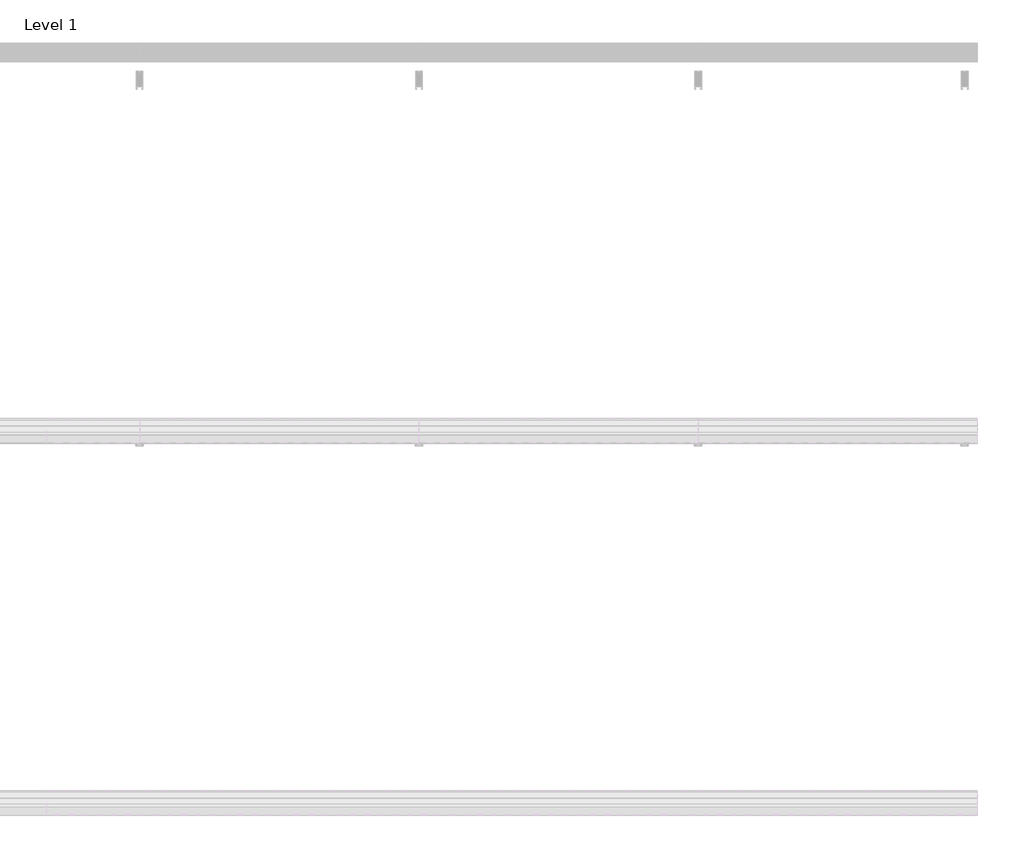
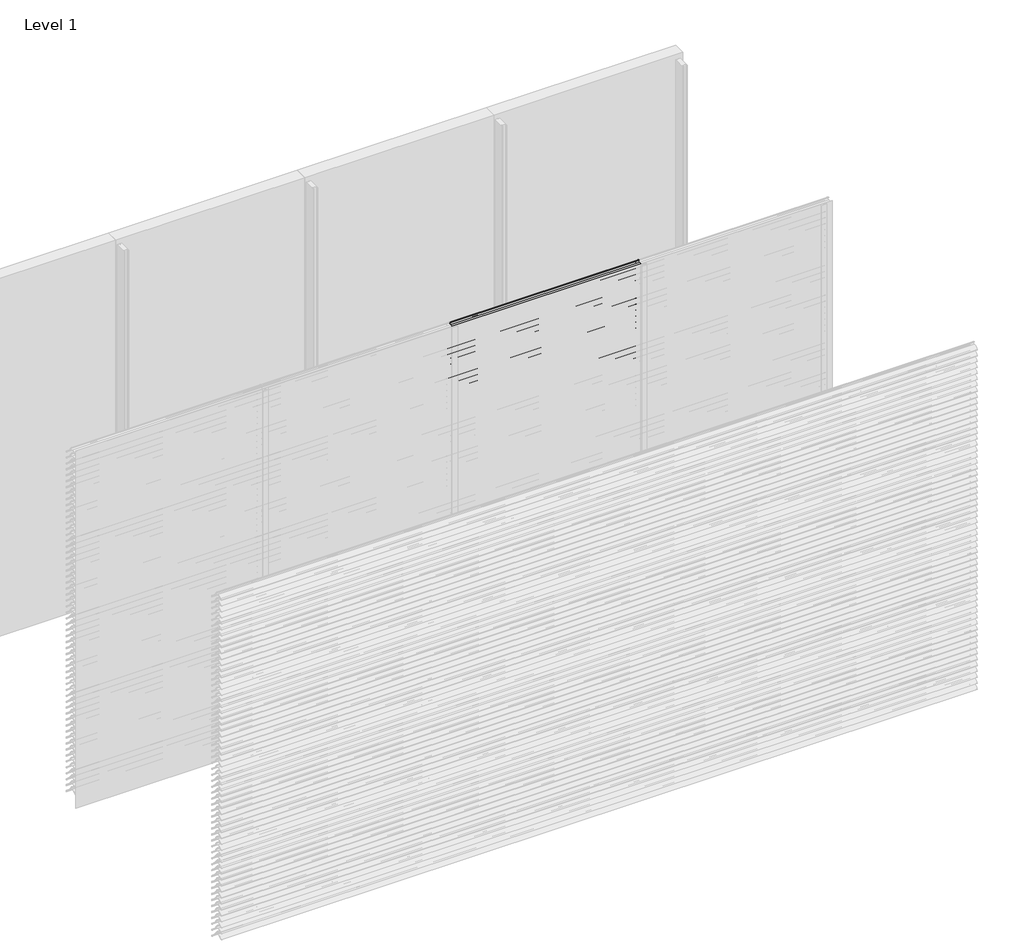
# One storey, part 99 of 173: 17 proxies.
"""IFC4 building model written with IfcOpenShell, lengths in millimetres."""

from ifc_helpers import new_model, si_unit, point, frame, frame_2d, origin, place, context, project, spatial, polyline, circle_curve, trimmed, segment, composite_curve, outline, extrude, element, save

model = new_model("IFC4")

# Units and contexts
model_context = context("Model", 3, world=origin())
ifc_project = project(units=[si_unit("LENGTHUNIT", "METRE", prefix="MILLI")], contexts=[model_context])

# Site, building, storey
site = spatial("IfcSite", under=ifc_project)
building = spatial("IfcBuilding", under=site)
storey = spatial("IfcBuildingStorey", under=building, Name="Level 1", Elevation=0.0)

# Proxies
placement = place(None, origin())
element("IfcBuildingElementProxy", 1, Name="Wall Sweeps", at=placement, inside=storey, context=model_context, shape_type="SweptSolid", body=[
    extrude(outline(composite_curve([segment(polyline([(-23998.0, 2959.1474905), (-23998.0, 2961.6227417)]), True, "CONTINUOUS"), segment(trimmed(circle_curve(frame_2d((-23951.2682172, 2916.2200208)), 65.1557103), [point((-23998.0, 2961.6227417))], [point((-23954.4014323, 2981.3003524))], False, "CARTESIAN"), True, "CONTINUOUS"), segment(polyline([(-23954.4014323, 2981.3003524), (-23934.8315836, 2981.3003524)]), True, "CONTINUOUS"), segment(trimmed(circle_curve(frame_2d((-23732.7329489, 3128.5533172)), 250.0545817), [point((-23934.8315836, 2981.3003524))], [point((-23941.4452143, 2990.8344583))], False, "CARTESIAN"), True, "CONTINUOUS"), segment(trimmed(circle_curve(frame_2d((-23953.2981792, 2985.1737835)), 13.1352966), [point((-23941.4452143, 2990.8344583))], [point((-23953.8171475, 2998.298824))], True, "CARTESIAN"), True, "CONTINUOUS"), segment(polyline([(-23953.8171475, 2998.298824), (-23953.8171475, 3000.0)]), True, "CONTINUOUS"), segment(trimmed(circle_curve(frame_2d((-23953.2981792, 2985.1737835)), 14.8352966), [point((-23953.8171475, 3000.0))], [point((-23939.9637661, 2991.6760487))], False, "CARTESIAN"), True, "CONTINUOUS"), segment(trimmed(circle_curve(frame_2d((-23732.7329489, 3128.5533172)), 248.3545817), [point((-23939.9637661, 2991.6760487))], [point((-23873.8787895, 2924.2059416))], True, "CARTESIAN"), True, "CONTINUOUS"), segment(trimmed(circle_curve(frame_2d((-23883.8147537, 2911.6649442)), 16.0), [point((-23873.8787895, 2924.2059416))], [point((-23867.8648347, 2910.4))], False, "CARTESIAN"), True, "CONTINUOUS"), segment(polyline([(-23867.8648347, 2910.4), (-23869.6712069, 2910.4)]), True, "CONTINUOUS"), segment(trimmed(circle_curve(frame_2d((-23883.8147537, 2911.6649442)), 14.2), [point((-23869.6712069, 2910.4))], [point((-23874.9518628, 2922.7594998))], True, "CARTESIAN"), True, "CONTINUOUS"), segment(trimmed(circle_curve(frame_2d((-23732.7329489, 3128.5533172)), 250.1545817), [point((-23874.9518628, 2922.7594998))], [point((-23933.7064024, 2979.6003524))], False, "CARTESIAN"), True, "CONTINUOUS"), segment(polyline([(-23933.7064024, 2979.6003524), (-23954.3602632, 2979.6003524)]), True, "CONTINUOUS"), segment(trimmed(circle_curve(frame_2d((-23951.2682172, 2916.2200208)), 63.4557103), [point((-23954.3602632, 2979.6003524))], [point((-23998.0, 2959.1474905))], True, "CARTESIAN"), True, "CONTINUOUS")], self_intersect=False)), frame((3000.0, 0.0, 0.0), z_axis=(1.0, 0.0, 0.0), x_axis=(0.0, 1.0, 0.0)), (0.0, 0.0, 1.0), 1500.0),
])
element("IfcBuildingElementProxy", 2, Name="Wall Sweeps", at=placement, inside=storey, context=model_context, shape_type="SweptSolid", body=[
    extrude(outline(composite_curve([segment(polyline([(-23998.0, 2909.1474905), (-23998.0, 2911.6227417)]), True, "CONTINUOUS"), segment(trimmed(circle_curve(frame_2d((-23951.2682172, 2866.2200208)), 65.1557103), [point((-23998.0, 2911.6227417))], [point((-23954.4014323, 2931.3003524))], False, "CARTESIAN"), True, "CONTINUOUS"), segment(polyline([(-23954.4014323, 2931.3003524), (-23934.8315836, 2931.3003524)]), True, "CONTINUOUS"), segment(trimmed(circle_curve(frame_2d((-23732.7329489, 3078.5533172)), 250.0545817), [point((-23934.8315836, 2931.3003524))], [point((-23941.4452143, 2940.8344583))], False, "CARTESIAN"), True, "CONTINUOUS"), segment(trimmed(circle_curve(frame_2d((-23953.2981792, 2935.1737835)), 13.1352966), [point((-23941.4452143, 2940.8344583))], [point((-23953.8171475, 2948.298824))], True, "CARTESIAN"), True, "CONTINUOUS"), segment(polyline([(-23953.8171475, 2948.298824), (-23953.8171475, 2950.0)]), True, "CONTINUOUS"), segment(trimmed(circle_curve(frame_2d((-23953.2981792, 2935.1737835)), 14.8352966), [point((-23953.8171475, 2950.0))], [point((-23939.9637661, 2941.6760487))], False, "CARTESIAN"), True, "CONTINUOUS"), segment(trimmed(circle_curve(frame_2d((-23732.7329489, 3078.5533172)), 248.3545817), [point((-23939.9637661, 2941.6760487))], [point((-23873.8787895, 2874.2059416))], True, "CARTESIAN"), True, "CONTINUOUS"), segment(trimmed(circle_curve(frame_2d((-23883.8147537, 2861.6649442)), 16.0), [point((-23873.8787895, 2874.2059416))], [point((-23867.8648347, 2860.4))], False, "CARTESIAN"), True, "CONTINUOUS"), segment(polyline([(-23867.8648347, 2860.4), (-23869.6712069, 2860.4)]), True, "CONTINUOUS"), segment(trimmed(circle_curve(frame_2d((-23883.8147537, 2861.6649442)), 14.2), [point((-23869.6712069, 2860.4))], [point((-23874.9518628, 2872.7594998))], True, "CARTESIAN"), True, "CONTINUOUS"), segment(trimmed(circle_curve(frame_2d((-23732.7329489, 3078.5533172)), 250.1545817), [point((-23874.9518628, 2872.7594998))], [point((-23933.7064024, 2929.6003524))], False, "CARTESIAN"), True, "CONTINUOUS"), segment(polyline([(-23933.7064024, 2929.6003524), (-23954.3602632, 2929.6003524)]), True, "CONTINUOUS"), segment(trimmed(circle_curve(frame_2d((-23951.2682172, 2866.2200208)), 63.4557103), [point((-23954.3602632, 2929.6003524))], [point((-23998.0, 2909.1474905))], True, "CARTESIAN"), True, "CONTINUOUS")], self_intersect=False)), frame((3000.0, 0.0, 0.0), z_axis=(1.0, 0.0, 0.0), x_axis=(0.0, 1.0, 0.0)), (0.0, 0.0, 1.0), 1500.0),
])
element("IfcBuildingElementProxy", 3, Name="Wall Sweeps", at=placement, inside=storey, context=model_context, shape_type="SweptSolid", body=[
    extrude(outline(composite_curve([segment(polyline([(-23998.0, 2859.1474905), (-23998.0, 2861.6227417)]), True, "CONTINUOUS"), segment(trimmed(circle_curve(frame_2d((-23951.2682172, 2816.2200208)), 65.1557103), [point((-23998.0, 2861.6227417))], [point((-23954.4014323, 2881.3003524))], False, "CARTESIAN"), True, "CONTINUOUS"), segment(polyline([(-23954.4014323, 2881.3003524), (-23934.8315836, 2881.3003524)]), True, "CONTINUOUS"), segment(trimmed(circle_curve(frame_2d((-23732.7329489, 3028.5533172)), 250.0545817), [point((-23934.8315836, 2881.3003524))], [point((-23941.4452143, 2890.8344583))], False, "CARTESIAN"), True, "CONTINUOUS"), segment(trimmed(circle_curve(frame_2d((-23953.2981792, 2885.1737835)), 13.1352966), [point((-23941.4452143, 2890.8344583))], [point((-23953.8171475, 2898.298824))], True, "CARTESIAN"), True, "CONTINUOUS"), segment(polyline([(-23953.8171475, 2898.298824), (-23953.8171475, 2900.0)]), True, "CONTINUOUS"), segment(trimmed(circle_curve(frame_2d((-23953.2981792, 2885.1737835)), 14.8352966), [point((-23953.8171475, 2900.0))], [point((-23939.9637661, 2891.6760487))], False, "CARTESIAN"), True, "CONTINUOUS"), segment(trimmed(circle_curve(frame_2d((-23732.7329489, 3028.5533172)), 248.3545817), [point((-23939.9637661, 2891.6760487))], [point((-23873.8787895, 2824.2059416))], True, "CARTESIAN"), True, "CONTINUOUS"), segment(trimmed(circle_curve(frame_2d((-23883.8147537, 2811.6649442)), 16.0), [point((-23873.8787895, 2824.2059416))], [point((-23867.8648347, 2810.4))], False, "CARTESIAN"), True, "CONTINUOUS"), segment(polyline([(-23867.8648347, 2810.4), (-23869.6712069, 2810.4)]), True, "CONTINUOUS"), segment(trimmed(circle_curve(frame_2d((-23883.8147537, 2811.6649442)), 14.2), [point((-23869.6712069, 2810.4))], [point((-23874.9518628, 2822.7594998))], True, "CARTESIAN"), True, "CONTINUOUS"), segment(trimmed(circle_curve(frame_2d((-23732.7329489, 3028.5533172)), 250.1545817), [point((-23874.9518628, 2822.7594998))], [point((-23933.7064024, 2879.6003524))], False, "CARTESIAN"), True, "CONTINUOUS"), segment(polyline([(-23933.7064024, 2879.6003524), (-23954.3602632, 2879.6003524)]), True, "CONTINUOUS"), segment(trimmed(circle_curve(frame_2d((-23951.2682172, 2816.2200208)), 63.4557103), [point((-23954.3602632, 2879.6003524))], [point((-23998.0, 2859.1474905))], True, "CARTESIAN"), True, "CONTINUOUS")], self_intersect=False)), frame((3000.0, 0.0, 0.0), z_axis=(1.0, 0.0, 0.0), x_axis=(0.0, 1.0, 0.0)), (0.0, 0.0, 1.0), 1500.0),
])
element("IfcBuildingElementProxy", 4, Name="Wall Sweeps", at=placement, inside=storey, context=model_context, shape_type="SweptSolid", body=[
    extrude(outline(composite_curve([segment(polyline([(-23998.0, 2809.1474905), (-23998.0, 2811.6227417)]), True, "CONTINUOUS"), segment(trimmed(circle_curve(frame_2d((-23951.2682172, 2766.2200208)), 65.1557103), [point((-23998.0, 2811.6227417))], [point((-23954.4014323, 2831.3003524))], False, "CARTESIAN"), True, "CONTINUOUS"), segment(polyline([(-23954.4014323, 2831.3003524), (-23934.8315836, 2831.3003524)]), True, "CONTINUOUS"), segment(trimmed(circle_curve(frame_2d((-23732.7329489, 2978.5533172)), 250.0545817), [point((-23934.8315836, 2831.3003524))], [point((-23941.4452143, 2840.8344583))], False, "CARTESIAN"), True, "CONTINUOUS"), segment(trimmed(circle_curve(frame_2d((-23953.2981792, 2835.1737835)), 13.1352966), [point((-23941.4452143, 2840.8344583))], [point((-23953.8171475, 2848.298824))], True, "CARTESIAN"), True, "CONTINUOUS"), segment(polyline([(-23953.8171475, 2848.298824), (-23953.8171475, 2850.0)]), True, "CONTINUOUS"), segment(trimmed(circle_curve(frame_2d((-23953.2981792, 2835.1737835)), 14.8352966), [point((-23953.8171475, 2850.0))], [point((-23939.9637661, 2841.6760487))], False, "CARTESIAN"), True, "CONTINUOUS"), segment(trimmed(circle_curve(frame_2d((-23732.7329489, 2978.5533172)), 248.3545817), [point((-23939.9637661, 2841.6760487))], [point((-23873.8787895, 2774.2059416))], True, "CARTESIAN"), True, "CONTINUOUS"), segment(trimmed(circle_curve(frame_2d((-23883.8147537, 2761.6649442)), 16.0), [point((-23873.8787895, 2774.2059416))], [point((-23867.8648347, 2760.4))], False, "CARTESIAN"), True, "CONTINUOUS"), segment(polyline([(-23867.8648347, 2760.4), (-23869.6712069, 2760.4)]), True, "CONTINUOUS"), segment(trimmed(circle_curve(frame_2d((-23883.8147537, 2761.6649442)), 14.2), [point((-23869.6712069, 2760.4))], [point((-23874.9518628, 2772.7594998))], True, "CARTESIAN"), True, "CONTINUOUS"), segment(trimmed(circle_curve(frame_2d((-23732.7329489, 2978.5533172)), 250.1545817), [point((-23874.9518628, 2772.7594998))], [point((-23933.7064024, 2829.6003524))], False, "CARTESIAN"), True, "CONTINUOUS"), segment(polyline([(-23933.7064024, 2829.6003524), (-23954.3602632, 2829.6003524)]), True, "CONTINUOUS"), segment(trimmed(circle_curve(frame_2d((-23951.2682172, 2766.2200208)), 63.4557103), [point((-23954.3602632, 2829.6003524))], [point((-23998.0, 2809.1474905))], True, "CARTESIAN"), True, "CONTINUOUS")], self_intersect=False)), frame((3000.0, 0.0, 0.0), z_axis=(1.0, 0.0, 0.0), x_axis=(0.0, 1.0, 0.0)), (0.0, 0.0, 1.0), 1500.0),
])
element("IfcBuildingElementProxy", 5, Name="Wall Sweeps", at=placement, inside=storey, context=model_context, shape_type="SweptSolid", body=[
    extrude(outline(composite_curve([segment(polyline([(-23998.0, 2759.1474905), (-23998.0, 2761.6227417)]), True, "CONTINUOUS"), segment(trimmed(circle_curve(frame_2d((-23951.2682172, 2716.2200208)), 65.1557103), [point((-23998.0, 2761.6227417))], [point((-23954.4014323, 2781.3003524))], False, "CARTESIAN"), True, "CONTINUOUS"), segment(polyline([(-23954.4014323, 2781.3003524), (-23934.8315836, 2781.3003524)]), True, "CONTINUOUS"), segment(trimmed(circle_curve(frame_2d((-23732.7329489, 2928.5533172)), 250.0545817), [point((-23934.8315836, 2781.3003524))], [point((-23941.4452143, 2790.8344583))], False, "CARTESIAN"), True, "CONTINUOUS"), segment(trimmed(circle_curve(frame_2d((-23953.2981792, 2785.1737835)), 13.1352966), [point((-23941.4452143, 2790.8344583))], [point((-23953.8171475, 2798.298824))], True, "CARTESIAN"), True, "CONTINUOUS"), segment(polyline([(-23953.8171475, 2798.298824), (-23953.8171475, 2800.0)]), True, "CONTINUOUS"), segment(trimmed(circle_curve(frame_2d((-23953.2981792, 2785.1737835)), 14.8352966), [point((-23953.8171475, 2800.0))], [point((-23939.9637661, 2791.6760487))], False, "CARTESIAN"), True, "CONTINUOUS"), segment(trimmed(circle_curve(frame_2d((-23732.7329489, 2928.5533172)), 248.3545817), [point((-23939.9637661, 2791.6760487))], [point((-23873.8787895, 2724.2059416))], True, "CARTESIAN"), True, "CONTINUOUS"), segment(trimmed(circle_curve(frame_2d((-23883.8147537, 2711.6649442)), 16.0), [point((-23873.8787895, 2724.2059416))], [point((-23867.8648347, 2710.4))], False, "CARTESIAN"), True, "CONTINUOUS"), segment(polyline([(-23867.8648347, 2710.4), (-23869.6712069, 2710.4)]), True, "CONTINUOUS"), segment(trimmed(circle_curve(frame_2d((-23883.8147537, 2711.6649442)), 14.2), [point((-23869.6712069, 2710.4))], [point((-23874.9518628, 2722.7594998))], True, "CARTESIAN"), True, "CONTINUOUS"), segment(trimmed(circle_curve(frame_2d((-23732.7329489, 2928.5533172)), 250.1545817), [point((-23874.9518628, 2722.7594998))], [point((-23933.7064024, 2779.6003524))], False, "CARTESIAN"), True, "CONTINUOUS"), segment(polyline([(-23933.7064024, 2779.6003524), (-23954.3602632, 2779.6003524)]), True, "CONTINUOUS"), segment(trimmed(circle_curve(frame_2d((-23951.2682172, 2716.2200208)), 63.4557103), [point((-23954.3602632, 2779.6003524))], [point((-23998.0, 2759.1474905))], True, "CARTESIAN"), True, "CONTINUOUS")], self_intersect=False)), frame((3000.0, 0.0, 0.0), z_axis=(1.0, 0.0, 0.0), x_axis=(0.0, 1.0, 0.0)), (0.0, 0.0, 1.0), 1500.0),
])
element("IfcBuildingElementProxy", 6, Name="Wall Sweeps", at=placement, inside=storey, context=model_context, shape_type="SweptSolid", body=[
    extrude(outline(composite_curve([segment(polyline([(-23998.0, 2709.1474905), (-23998.0, 2711.6227417)]), True, "CONTINUOUS"), segment(trimmed(circle_curve(frame_2d((-23951.2682172, 2666.2200208)), 65.1557103), [point((-23998.0, 2711.6227417))], [point((-23954.4014323, 2731.3003524))], False, "CARTESIAN"), True, "CONTINUOUS"), segment(polyline([(-23954.4014323, 2731.3003524), (-23934.8315836, 2731.3003524)]), True, "CONTINUOUS"), segment(trimmed(circle_curve(frame_2d((-23732.7329489, 2878.5533172)), 250.0545817), [point((-23934.8315836, 2731.3003524))], [point((-23941.4452143, 2740.8344583))], False, "CARTESIAN"), True, "CONTINUOUS"), segment(trimmed(circle_curve(frame_2d((-23953.2981792, 2735.1737835)), 13.1352966), [point((-23941.4452143, 2740.8344583))], [point((-23953.8171475, 2748.298824))], True, "CARTESIAN"), True, "CONTINUOUS"), segment(polyline([(-23953.8171475, 2748.298824), (-23953.8171475, 2750.0)]), True, "CONTINUOUS"), segment(trimmed(circle_curve(frame_2d((-23953.2981792, 2735.1737835)), 14.8352966), [point((-23953.8171475, 2750.0))], [point((-23939.9637661, 2741.6760487))], False, "CARTESIAN"), True, "CONTINUOUS"), segment(trimmed(circle_curve(frame_2d((-23732.7329489, 2878.5533172)), 248.3545817), [point((-23939.9637661, 2741.6760487))], [point((-23873.8787895, 2674.2059416))], True, "CARTESIAN"), True, "CONTINUOUS"), segment(trimmed(circle_curve(frame_2d((-23883.8147537, 2661.6649442)), 16.0), [point((-23873.8787895, 2674.2059416))], [point((-23867.8648347, 2660.4))], False, "CARTESIAN"), True, "CONTINUOUS"), segment(polyline([(-23867.8648347, 2660.4), (-23869.6712069, 2660.4)]), True, "CONTINUOUS"), segment(trimmed(circle_curve(frame_2d((-23883.8147537, 2661.6649442)), 14.2), [point((-23869.6712069, 2660.4))], [point((-23874.9518628, 2672.7594998))], True, "CARTESIAN"), True, "CONTINUOUS"), segment(trimmed(circle_curve(frame_2d((-23732.7329489, 2878.5533172)), 250.1545817), [point((-23874.9518628, 2672.7594998))], [point((-23933.7064024, 2729.6003524))], False, "CARTESIAN"), True, "CONTINUOUS"), segment(polyline([(-23933.7064024, 2729.6003524), (-23954.3602632, 2729.6003524)]), True, "CONTINUOUS"), segment(trimmed(circle_curve(frame_2d((-23951.2682172, 2666.2200208)), 63.4557103), [point((-23954.3602632, 2729.6003524))], [point((-23998.0, 2709.1474905))], True, "CARTESIAN"), True, "CONTINUOUS")], self_intersect=False)), frame((3000.0, 0.0, 0.0), z_axis=(1.0, 0.0, 0.0), x_axis=(0.0, 1.0, 0.0)), (0.0, 0.0, 1.0), 1500.0),
])
element("IfcBuildingElementProxy", 7, Name="Wall Sweeps", at=placement, inside=storey, context=model_context, shape_type="SweptSolid", body=[
    extrude(outline(composite_curve([segment(polyline([(-23998.0, 2659.1474905), (-23998.0, 2661.6227417)]), True, "CONTINUOUS"), segment(trimmed(circle_curve(frame_2d((-23951.2682172, 2616.2200208)), 65.1557103), [point((-23998.0, 2661.6227417))], [point((-23954.4014323, 2681.3003524))], False, "CARTESIAN"), True, "CONTINUOUS"), segment(polyline([(-23954.4014323, 2681.3003524), (-23934.8315836, 2681.3003524)]), True, "CONTINUOUS"), segment(trimmed(circle_curve(frame_2d((-23732.7329489, 2828.5533172)), 250.0545817), [point((-23934.8315836, 2681.3003524))], [point((-23941.4452143, 2690.8344583))], False, "CARTESIAN"), True, "CONTINUOUS"), segment(trimmed(circle_curve(frame_2d((-23953.2981792, 2685.1737835)), 13.1352966), [point((-23941.4452143, 2690.8344583))], [point((-23953.8171475, 2698.298824))], True, "CARTESIAN"), True, "CONTINUOUS"), segment(polyline([(-23953.8171475, 2698.298824), (-23953.8171475, 2700.0)]), True, "CONTINUOUS"), segment(trimmed(circle_curve(frame_2d((-23953.2981792, 2685.1737835)), 14.8352966), [point((-23953.8171475, 2700.0))], [point((-23939.9637661, 2691.6760487))], False, "CARTESIAN"), True, "CONTINUOUS"), segment(trimmed(circle_curve(frame_2d((-23732.7329489, 2828.5533172)), 248.3545817), [point((-23939.9637661, 2691.6760487))], [point((-23873.8787895, 2624.2059416))], True, "CARTESIAN"), True, "CONTINUOUS"), segment(trimmed(circle_curve(frame_2d((-23883.8147537, 2611.6649442)), 16.0), [point((-23873.8787895, 2624.2059416))], [point((-23867.8648347, 2610.4))], False, "CARTESIAN"), True, "CONTINUOUS"), segment(polyline([(-23867.8648347, 2610.4), (-23869.6712069, 2610.4)]), True, "CONTINUOUS"), segment(trimmed(circle_curve(frame_2d((-23883.8147537, 2611.6649442)), 14.2), [point((-23869.6712069, 2610.4))], [point((-23874.9518628, 2622.7594998))], True, "CARTESIAN"), True, "CONTINUOUS"), segment(trimmed(circle_curve(frame_2d((-23732.7329489, 2828.5533172)), 250.1545817), [point((-23874.9518628, 2622.7594998))], [point((-23933.7064024, 2679.6003524))], False, "CARTESIAN"), True, "CONTINUOUS"), segment(polyline([(-23933.7064024, 2679.6003524), (-23954.3602632, 2679.6003524)]), True, "CONTINUOUS"), segment(trimmed(circle_curve(frame_2d((-23951.2682172, 2616.2200208)), 63.4557103), [point((-23954.3602632, 2679.6003524))], [point((-23998.0, 2659.1474905))], True, "CARTESIAN"), True, "CONTINUOUS")], self_intersect=False)), frame((3000.0, 0.0, 0.0), z_axis=(1.0, 0.0, 0.0), x_axis=(0.0, 1.0, 0.0)), (0.0, 0.0, 1.0), 1500.0),
])
element("IfcBuildingElementProxy", 8, Name="Wall Sweeps", at=placement, inside=storey, context=model_context, shape_type="SweptSolid", body=[
    extrude(outline(composite_curve([segment(polyline([(-23998.0, 2609.1474905), (-23998.0, 2611.6227417)]), True, "CONTINUOUS"), segment(trimmed(circle_curve(frame_2d((-23951.2682172, 2566.2200208)), 65.1557103), [point((-23998.0, 2611.6227417))], [point((-23954.4014323, 2631.3003524))], False, "CARTESIAN"), True, "CONTINUOUS"), segment(polyline([(-23954.4014323, 2631.3003524), (-23934.8315836, 2631.3003524)]), True, "CONTINUOUS"), segment(trimmed(circle_curve(frame_2d((-23732.7329489, 2778.5533172)), 250.0545817), [point((-23934.8315836, 2631.3003524))], [point((-23941.4452143, 2640.8344583))], False, "CARTESIAN"), True, "CONTINUOUS"), segment(trimmed(circle_curve(frame_2d((-23953.2981792, 2635.1737835)), 13.1352966), [point((-23941.4452143, 2640.8344583))], [point((-23953.8171475, 2648.298824))], True, "CARTESIAN"), True, "CONTINUOUS"), segment(polyline([(-23953.8171475, 2648.298824), (-23953.8171475, 2650.0)]), True, "CONTINUOUS"), segment(trimmed(circle_curve(frame_2d((-23953.2981792, 2635.1737835)), 14.8352966), [point((-23953.8171475, 2650.0))], [point((-23939.9637661, 2641.6760487))], False, "CARTESIAN"), True, "CONTINUOUS"), segment(trimmed(circle_curve(frame_2d((-23732.7329489, 2778.5533172)), 248.3545817), [point((-23939.9637661, 2641.6760487))], [point((-23873.8787895, 2574.2059416))], True, "CARTESIAN"), True, "CONTINUOUS"), segment(trimmed(circle_curve(frame_2d((-23883.8147537, 2561.6649442)), 16.0), [point((-23873.8787895, 2574.2059416))], [point((-23867.8648347, 2560.4))], False, "CARTESIAN"), True, "CONTINUOUS"), segment(polyline([(-23867.8648347, 2560.4), (-23869.6712069, 2560.4)]), True, "CONTINUOUS"), segment(trimmed(circle_curve(frame_2d((-23883.8147537, 2561.6649442)), 14.2), [point((-23869.6712069, 2560.4))], [point((-23874.9518628, 2572.7594998))], True, "CARTESIAN"), True, "CONTINUOUS"), segment(trimmed(circle_curve(frame_2d((-23732.7329489, 2778.5533172)), 250.1545817), [point((-23874.9518628, 2572.7594998))], [point((-23933.7064024, 2629.6003524))], False, "CARTESIAN"), True, "CONTINUOUS"), segment(polyline([(-23933.7064024, 2629.6003524), (-23954.3602632, 2629.6003524)]), True, "CONTINUOUS"), segment(trimmed(circle_curve(frame_2d((-23951.2682172, 2566.2200208)), 63.4557103), [point((-23954.3602632, 2629.6003524))], [point((-23998.0, 2609.1474905))], True, "CARTESIAN"), True, "CONTINUOUS")], self_intersect=False)), frame((3000.0, 0.0, 0.0), z_axis=(1.0, 0.0, 0.0), x_axis=(0.0, 1.0, 0.0)), (0.0, 0.0, 1.0), 1500.0),
])
element("IfcBuildingElementProxy", 9, Name="Wall Sweeps", at=placement, inside=storey, context=model_context, shape_type="SweptSolid", body=[
    extrude(outline(composite_curve([segment(polyline([(-23998.0, 2559.1474905), (-23998.0, 2561.6227417)]), True, "CONTINUOUS"), segment(trimmed(circle_curve(frame_2d((-23951.2682172, 2516.2200208)), 65.1557103), [point((-23998.0, 2561.6227417))], [point((-23954.4014323, 2581.3003524))], False, "CARTESIAN"), True, "CONTINUOUS"), segment(polyline([(-23954.4014323, 2581.3003524), (-23934.8315836, 2581.3003524)]), True, "CONTINUOUS"), segment(trimmed(circle_curve(frame_2d((-23732.7329489, 2728.5533172)), 250.0545817), [point((-23934.8315836, 2581.3003524))], [point((-23941.4452143, 2590.8344583))], False, "CARTESIAN"), True, "CONTINUOUS"), segment(trimmed(circle_curve(frame_2d((-23953.2981792, 2585.1737835)), 13.1352966), [point((-23941.4452143, 2590.8344583))], [point((-23953.8171475, 2598.298824))], True, "CARTESIAN"), True, "CONTINUOUS"), segment(polyline([(-23953.8171475, 2598.298824), (-23953.8171475, 2600.0)]), True, "CONTINUOUS"), segment(trimmed(circle_curve(frame_2d((-23953.2981792, 2585.1737835)), 14.8352966), [point((-23953.8171475, 2600.0))], [point((-23939.9637661, 2591.6760487))], False, "CARTESIAN"), True, "CONTINUOUS"), segment(trimmed(circle_curve(frame_2d((-23732.7329489, 2728.5533172)), 248.3545817), [point((-23939.9637661, 2591.6760487))], [point((-23873.8787895, 2524.2059416))], True, "CARTESIAN"), True, "CONTINUOUS"), segment(trimmed(circle_curve(frame_2d((-23883.8147537, 2511.6649442)), 16.0), [point((-23873.8787895, 2524.2059416))], [point((-23867.8648347, 2510.4))], False, "CARTESIAN"), True, "CONTINUOUS"), segment(polyline([(-23867.8648347, 2510.4), (-23869.6712069, 2510.4)]), True, "CONTINUOUS"), segment(trimmed(circle_curve(frame_2d((-23883.8147537, 2511.6649442)), 14.2), [point((-23869.6712069, 2510.4))], [point((-23874.9518628, 2522.7594998))], True, "CARTESIAN"), True, "CONTINUOUS"), segment(trimmed(circle_curve(frame_2d((-23732.7329489, 2728.5533172)), 250.1545817), [point((-23874.9518628, 2522.7594998))], [point((-23933.7064024, 2579.6003524))], False, "CARTESIAN"), True, "CONTINUOUS"), segment(polyline([(-23933.7064024, 2579.6003524), (-23954.3602632, 2579.6003524)]), True, "CONTINUOUS"), segment(trimmed(circle_curve(frame_2d((-23951.2682172, 2516.2200208)), 63.4557103), [point((-23954.3602632, 2579.6003524))], [point((-23998.0, 2559.1474905))], True, "CARTESIAN"), True, "CONTINUOUS")], self_intersect=False)), frame((3000.0, 0.0, 0.0), z_axis=(1.0, 0.0, 0.0), x_axis=(0.0, 1.0, 0.0)), (0.0, 0.0, 1.0), 1500.0),
])
element("IfcBuildingElementProxy", 10, Name="Wall Sweeps", at=placement, inside=storey, context=model_context, shape_type="SweptSolid", body=[
    extrude(outline(composite_curve([segment(polyline([(-23998.0, 2509.1474905), (-23998.0, 2511.6227417)]), True, "CONTINUOUS"), segment(trimmed(circle_curve(frame_2d((-23951.2682172, 2466.2200208)), 65.1557103), [point((-23998.0, 2511.6227417))], [point((-23954.4014323, 2531.3003524))], False, "CARTESIAN"), True, "CONTINUOUS"), segment(polyline([(-23954.4014323, 2531.3003524), (-23934.8315836, 2531.3003524)]), True, "CONTINUOUS"), segment(trimmed(circle_curve(frame_2d((-23732.7329489, 2678.5533172)), 250.0545817), [point((-23934.8315836, 2531.3003524))], [point((-23941.4452143, 2540.8344583))], False, "CARTESIAN"), True, "CONTINUOUS"), segment(trimmed(circle_curve(frame_2d((-23953.2981792, 2535.1737835)), 13.1352966), [point((-23941.4452143, 2540.8344583))], [point((-23953.8171475, 2548.298824))], True, "CARTESIAN"), True, "CONTINUOUS"), segment(polyline([(-23953.8171475, 2548.298824), (-23953.8171475, 2550.0)]), True, "CONTINUOUS"), segment(trimmed(circle_curve(frame_2d((-23953.2981792, 2535.1737835)), 14.8352966), [point((-23953.8171475, 2550.0))], [point((-23939.9637661, 2541.6760487))], False, "CARTESIAN"), True, "CONTINUOUS"), segment(trimmed(circle_curve(frame_2d((-23732.7329489, 2678.5533172)), 248.3545817), [point((-23939.9637661, 2541.6760487))], [point((-23873.8787895, 2474.2059416))], True, "CARTESIAN"), True, "CONTINUOUS"), segment(trimmed(circle_curve(frame_2d((-23883.8147537, 2461.6649442)), 16.0), [point((-23873.8787895, 2474.2059416))], [point((-23867.8648347, 2460.4))], False, "CARTESIAN"), True, "CONTINUOUS"), segment(polyline([(-23867.8648347, 2460.4), (-23869.6712069, 2460.4)]), True, "CONTINUOUS"), segment(trimmed(circle_curve(frame_2d((-23883.8147537, 2461.6649442)), 14.2), [point((-23869.6712069, 2460.4))], [point((-23874.9518628, 2472.7594998))], True, "CARTESIAN"), True, "CONTINUOUS"), segment(trimmed(circle_curve(frame_2d((-23732.7329489, 2678.5533172)), 250.1545817), [point((-23874.9518628, 2472.7594998))], [point((-23933.7064024, 2529.6003524))], False, "CARTESIAN"), True, "CONTINUOUS"), segment(polyline([(-23933.7064024, 2529.6003524), (-23954.3602632, 2529.6003524)]), True, "CONTINUOUS"), segment(trimmed(circle_curve(frame_2d((-23951.2682172, 2466.2200208)), 63.4557103), [point((-23954.3602632, 2529.6003524))], [point((-23998.0, 2509.1474905))], True, "CARTESIAN"), True, "CONTINUOUS")], self_intersect=False)), frame((3000.0, 0.0, 0.0), z_axis=(1.0, 0.0, 0.0), x_axis=(0.0, 1.0, 0.0)), (0.0, 0.0, 1.0), 1500.0),
])
element("IfcBuildingElementProxy", 11, Name="Wall Sweeps", at=placement, inside=storey, context=model_context, shape_type="SweptSolid", body=[
    extrude(outline(composite_curve([segment(polyline([(-23998.0, 2459.1474905), (-23998.0, 2461.6227417)]), True, "CONTINUOUS"), segment(trimmed(circle_curve(frame_2d((-23951.2682172, 2416.2200208)), 65.1557103), [point((-23998.0, 2461.6227417))], [point((-23954.4014323, 2481.3003524))], False, "CARTESIAN"), True, "CONTINUOUS"), segment(polyline([(-23954.4014323, 2481.3003524), (-23934.8315836, 2481.3003524)]), True, "CONTINUOUS"), segment(trimmed(circle_curve(frame_2d((-23732.7329489, 2628.5533172)), 250.0545817), [point((-23934.8315836, 2481.3003524))], [point((-23941.4452143, 2490.8344583))], False, "CARTESIAN"), True, "CONTINUOUS"), segment(trimmed(circle_curve(frame_2d((-23953.2981792, 2485.1737835)), 13.1352966), [point((-23941.4452143, 2490.8344583))], [point((-23953.8171475, 2498.298824))], True, "CARTESIAN"), True, "CONTINUOUS"), segment(polyline([(-23953.8171475, 2498.298824), (-23953.8171475, 2500.0)]), True, "CONTINUOUS"), segment(trimmed(circle_curve(frame_2d((-23953.2981792, 2485.1737835)), 14.8352966), [point((-23953.8171475, 2500.0))], [point((-23939.9637661, 2491.6760487))], False, "CARTESIAN"), True, "CONTINUOUS"), segment(trimmed(circle_curve(frame_2d((-23732.7329489, 2628.5533172)), 248.3545817), [point((-23939.9637661, 2491.6760487))], [point((-23873.8787895, 2424.2059416))], True, "CARTESIAN"), True, "CONTINUOUS"), segment(trimmed(circle_curve(frame_2d((-23883.8147537, 2411.6649442)), 16.0), [point((-23873.8787895, 2424.2059416))], [point((-23867.8648347, 2410.4))], False, "CARTESIAN"), True, "CONTINUOUS"), segment(polyline([(-23867.8648347, 2410.4), (-23869.6712069, 2410.4)]), True, "CONTINUOUS"), segment(trimmed(circle_curve(frame_2d((-23883.8147537, 2411.6649442)), 14.2), [point((-23869.6712069, 2410.4))], [point((-23874.9518628, 2422.7594998))], True, "CARTESIAN"), True, "CONTINUOUS"), segment(trimmed(circle_curve(frame_2d((-23732.7329489, 2628.5533172)), 250.1545817), [point((-23874.9518628, 2422.7594998))], [point((-23933.7064024, 2479.6003524))], False, "CARTESIAN"), True, "CONTINUOUS"), segment(polyline([(-23933.7064024, 2479.6003524), (-23954.3602632, 2479.6003524)]), True, "CONTINUOUS"), segment(trimmed(circle_curve(frame_2d((-23951.2682172, 2416.2200208)), 63.4557103), [point((-23954.3602632, 2479.6003524))], [point((-23998.0, 2459.1474905))], True, "CARTESIAN"), True, "CONTINUOUS")], self_intersect=False)), frame((3000.0, 0.0, 0.0), z_axis=(1.0, 0.0, 0.0), x_axis=(0.0, 1.0, 0.0)), (0.0, 0.0, 1.0), 1500.0),
])
element("IfcBuildingElementProxy", 12, Name="Wall Sweeps", at=placement, inside=storey, context=model_context, shape_type="SweptSolid", body=[
    extrude(outline(composite_curve([segment(polyline([(-23998.0, 2409.1474905), (-23998.0, 2411.6227417)]), True, "CONTINUOUS"), segment(trimmed(circle_curve(frame_2d((-23951.2682172, 2366.2200208)), 65.1557103), [point((-23998.0, 2411.6227417))], [point((-23954.4014323, 2431.3003524))], False, "CARTESIAN"), True, "CONTINUOUS"), segment(polyline([(-23954.4014323, 2431.3003524), (-23934.8315836, 2431.3003524)]), True, "CONTINUOUS"), segment(trimmed(circle_curve(frame_2d((-23732.7329489, 2578.5533172)), 250.0545817), [point((-23934.8315836, 2431.3003524))], [point((-23941.4452143, 2440.8344583))], False, "CARTESIAN"), True, "CONTINUOUS"), segment(trimmed(circle_curve(frame_2d((-23953.2981792, 2435.1737835)), 13.1352966), [point((-23941.4452143, 2440.8344583))], [point((-23953.8171475, 2448.298824))], True, "CARTESIAN"), True, "CONTINUOUS"), segment(polyline([(-23953.8171475, 2448.298824), (-23953.8171475, 2450.0)]), True, "CONTINUOUS"), segment(trimmed(circle_curve(frame_2d((-23953.2981792, 2435.1737835)), 14.8352966), [point((-23953.8171475, 2450.0))], [point((-23939.9637661, 2441.6760487))], False, "CARTESIAN"), True, "CONTINUOUS"), segment(trimmed(circle_curve(frame_2d((-23732.7329489, 2578.5533172)), 248.3545817), [point((-23939.9637661, 2441.6760487))], [point((-23873.8787895, 2374.2059416))], True, "CARTESIAN"), True, "CONTINUOUS"), segment(trimmed(circle_curve(frame_2d((-23883.8147537, 2361.6649442)), 16.0), [point((-23873.8787895, 2374.2059416))], [point((-23867.8648347, 2360.4))], False, "CARTESIAN"), True, "CONTINUOUS"), segment(polyline([(-23867.8648347, 2360.4), (-23869.6712069, 2360.4)]), True, "CONTINUOUS"), segment(trimmed(circle_curve(frame_2d((-23883.8147537, 2361.6649442)), 14.2), [point((-23869.6712069, 2360.4))], [point((-23874.9518628, 2372.7594998))], True, "CARTESIAN"), True, "CONTINUOUS"), segment(trimmed(circle_curve(frame_2d((-23732.7329489, 2578.5533172)), 250.1545817), [point((-23874.9518628, 2372.7594998))], [point((-23933.7064024, 2429.6003524))], False, "CARTESIAN"), True, "CONTINUOUS"), segment(polyline([(-23933.7064024, 2429.6003524), (-23954.3602632, 2429.6003524)]), True, "CONTINUOUS"), segment(trimmed(circle_curve(frame_2d((-23951.2682172, 2366.2200208)), 63.4557103), [point((-23954.3602632, 2429.6003524))], [point((-23998.0, 2409.1474905))], True, "CARTESIAN"), True, "CONTINUOUS")], self_intersect=False)), frame((3000.0, 0.0, 0.0), z_axis=(1.0, 0.0, 0.0), x_axis=(0.0, 1.0, 0.0)), (0.0, 0.0, 1.0), 1500.0),
])
element("IfcBuildingElementProxy", 13, Name="Wall Sweeps", at=placement, inside=storey, context=model_context, shape_type="SweptSolid", body=[
    extrude(outline(composite_curve([segment(polyline([(-23998.0, 2359.1474905), (-23998.0, 2361.6227417)]), True, "CONTINUOUS"), segment(trimmed(circle_curve(frame_2d((-23951.2682172, 2316.2200208)), 65.1557103), [point((-23998.0, 2361.6227417))], [point((-23954.4014323, 2381.3003524))], False, "CARTESIAN"), True, "CONTINUOUS"), segment(polyline([(-23954.4014323, 2381.3003524), (-23934.8315836, 2381.3003524)]), True, "CONTINUOUS"), segment(trimmed(circle_curve(frame_2d((-23732.7329489, 2528.5533172)), 250.0545817), [point((-23934.8315836, 2381.3003524))], [point((-23941.4452143, 2390.8344583))], False, "CARTESIAN"), True, "CONTINUOUS"), segment(trimmed(circle_curve(frame_2d((-23953.2981792, 2385.1737835)), 13.1352966), [point((-23941.4452143, 2390.8344583))], [point((-23953.8171475, 2398.298824))], True, "CARTESIAN"), True, "CONTINUOUS"), segment(polyline([(-23953.8171475, 2398.298824), (-23953.8171475, 2400.0)]), True, "CONTINUOUS"), segment(trimmed(circle_curve(frame_2d((-23953.2981792, 2385.1737835)), 14.8352966), [point((-23953.8171475, 2400.0))], [point((-23939.9637661, 2391.6760487))], False, "CARTESIAN"), True, "CONTINUOUS"), segment(trimmed(circle_curve(frame_2d((-23732.7329489, 2528.5533172)), 248.3545817), [point((-23939.9637661, 2391.6760487))], [point((-23873.8787895, 2324.2059416))], True, "CARTESIAN"), True, "CONTINUOUS"), segment(trimmed(circle_curve(frame_2d((-23883.8147537, 2311.6649442)), 16.0), [point((-23873.8787895, 2324.2059416))], [point((-23867.8648347, 2310.4))], False, "CARTESIAN"), True, "CONTINUOUS"), segment(polyline([(-23867.8648347, 2310.4), (-23869.6712069, 2310.4)]), True, "CONTINUOUS"), segment(trimmed(circle_curve(frame_2d((-23883.8147537, 2311.6649442)), 14.2), [point((-23869.6712069, 2310.4))], [point((-23874.9518628, 2322.7594998))], True, "CARTESIAN"), True, "CONTINUOUS"), segment(trimmed(circle_curve(frame_2d((-23732.7329489, 2528.5533172)), 250.1545817), [point((-23874.9518628, 2322.7594998))], [point((-23933.7064024, 2379.6003524))], False, "CARTESIAN"), True, "CONTINUOUS"), segment(polyline([(-23933.7064024, 2379.6003524), (-23954.3602632, 2379.6003524)]), True, "CONTINUOUS"), segment(trimmed(circle_curve(frame_2d((-23951.2682172, 2316.2200208)), 63.4557103), [point((-23954.3602632, 2379.6003524))], [point((-23998.0, 2359.1474905))], True, "CARTESIAN"), True, "CONTINUOUS")], self_intersect=False)), frame((3000.0, 0.0, 0.0), z_axis=(1.0, 0.0, 0.0), x_axis=(0.0, 1.0, 0.0)), (0.0, 0.0, 1.0), 1500.0),
])
element("IfcBuildingElementProxy", 14, Name="Wall Sweeps", at=placement, inside=storey, context=model_context, shape_type="SweptSolid", body=[
    extrude(outline(composite_curve([segment(polyline([(-23998.0, 2309.1474905), (-23998.0, 2311.6227417)]), True, "CONTINUOUS"), segment(trimmed(circle_curve(frame_2d((-23951.2682172, 2266.2200208)), 65.1557103), [point((-23998.0, 2311.6227417))], [point((-23954.4014323, 2331.3003524))], False, "CARTESIAN"), True, "CONTINUOUS"), segment(polyline([(-23954.4014323, 2331.3003524), (-23934.8315836, 2331.3003524)]), True, "CONTINUOUS"), segment(trimmed(circle_curve(frame_2d((-23732.7329489, 2478.5533172)), 250.0545817), [point((-23934.8315836, 2331.3003524))], [point((-23941.4452143, 2340.8344583))], False, "CARTESIAN"), True, "CONTINUOUS"), segment(trimmed(circle_curve(frame_2d((-23953.2981792, 2335.1737835)), 13.1352966), [point((-23941.4452143, 2340.8344583))], [point((-23953.8171475, 2348.298824))], True, "CARTESIAN"), True, "CONTINUOUS"), segment(polyline([(-23953.8171475, 2348.298824), (-23953.8171475, 2350.0)]), True, "CONTINUOUS"), segment(trimmed(circle_curve(frame_2d((-23953.2981792, 2335.1737835)), 14.8352966), [point((-23953.8171475, 2350.0))], [point((-23939.9637661, 2341.6760487))], False, "CARTESIAN"), True, "CONTINUOUS"), segment(trimmed(circle_curve(frame_2d((-23732.7329489, 2478.5533172)), 248.3545817), [point((-23939.9637661, 2341.6760487))], [point((-23873.8787895, 2274.2059416))], True, "CARTESIAN"), True, "CONTINUOUS"), segment(trimmed(circle_curve(frame_2d((-23883.8147537, 2261.6649442)), 16.0), [point((-23873.8787895, 2274.2059416))], [point((-23867.8648347, 2260.4))], False, "CARTESIAN"), True, "CONTINUOUS"), segment(polyline([(-23867.8648347, 2260.4), (-23869.6712069, 2260.4)]), True, "CONTINUOUS"), segment(trimmed(circle_curve(frame_2d((-23883.8147537, 2261.6649442)), 14.2), [point((-23869.6712069, 2260.4))], [point((-23874.9518628, 2272.7594998))], True, "CARTESIAN"), True, "CONTINUOUS"), segment(trimmed(circle_curve(frame_2d((-23732.7329489, 2478.5533172)), 250.1545817), [point((-23874.9518628, 2272.7594998))], [point((-23933.7064024, 2329.6003524))], False, "CARTESIAN"), True, "CONTINUOUS"), segment(polyline([(-23933.7064024, 2329.6003524), (-23954.3602632, 2329.6003524)]), True, "CONTINUOUS"), segment(trimmed(circle_curve(frame_2d((-23951.2682172, 2266.2200208)), 63.4557103), [point((-23954.3602632, 2329.6003524))], [point((-23998.0, 2309.1474905))], True, "CARTESIAN"), True, "CONTINUOUS")], self_intersect=False)), frame((3000.0, 0.0, 0.0), z_axis=(1.0, 0.0, 0.0), x_axis=(0.0, 1.0, 0.0)), (0.0, 0.0, 1.0), 1500.0),
])
element("IfcBuildingElementProxy", 15, Name="Wall Sweeps", at=placement, inside=storey, context=model_context, shape_type="SweptSolid", body=[
    extrude(outline(composite_curve([segment(polyline([(-23998.0, 2259.1474905), (-23998.0, 2261.6227417)]), True, "CONTINUOUS"), segment(trimmed(circle_curve(frame_2d((-23951.2682172, 2216.2200208)), 65.1557103), [point((-23998.0, 2261.6227417))], [point((-23954.4014323, 2281.3003524))], False, "CARTESIAN"), True, "CONTINUOUS"), segment(polyline([(-23954.4014323, 2281.3003524), (-23934.8315836, 2281.3003524)]), True, "CONTINUOUS"), segment(trimmed(circle_curve(frame_2d((-23732.7329489, 2428.5533172)), 250.0545817), [point((-23934.8315836, 2281.3003524))], [point((-23941.4452143, 2290.8344583))], False, "CARTESIAN"), True, "CONTINUOUS"), segment(trimmed(circle_curve(frame_2d((-23953.2981792, 2285.1737835)), 13.1352966), [point((-23941.4452143, 2290.8344583))], [point((-23953.8171475, 2298.298824))], True, "CARTESIAN"), True, "CONTINUOUS"), segment(polyline([(-23953.8171475, 2298.298824), (-23953.8171475, 2300.0)]), True, "CONTINUOUS"), segment(trimmed(circle_curve(frame_2d((-23953.2981792, 2285.1737835)), 14.8352966), [point((-23953.8171475, 2300.0))], [point((-23939.9637661, 2291.6760487))], False, "CARTESIAN"), True, "CONTINUOUS"), segment(trimmed(circle_curve(frame_2d((-23732.7329489, 2428.5533172)), 248.3545817), [point((-23939.9637661, 2291.6760487))], [point((-23873.8787895, 2224.2059416))], True, "CARTESIAN"), True, "CONTINUOUS"), segment(trimmed(circle_curve(frame_2d((-23883.8147537, 2211.6649442)), 16.0), [point((-23873.8787895, 2224.2059416))], [point((-23867.8648347, 2210.4))], False, "CARTESIAN"), True, "CONTINUOUS"), segment(polyline([(-23867.8648347, 2210.4), (-23869.6712069, 2210.4)]), True, "CONTINUOUS"), segment(trimmed(circle_curve(frame_2d((-23883.8147537, 2211.6649442)), 14.2), [point((-23869.6712069, 2210.4))], [point((-23874.9518628, 2222.7594998))], True, "CARTESIAN"), True, "CONTINUOUS"), segment(trimmed(circle_curve(frame_2d((-23732.7329489, 2428.5533172)), 250.1545817), [point((-23874.9518628, 2222.7594998))], [point((-23933.7064024, 2279.6003524))], False, "CARTESIAN"), True, "CONTINUOUS"), segment(polyline([(-23933.7064024, 2279.6003524), (-23954.3602632, 2279.6003524)]), True, "CONTINUOUS"), segment(trimmed(circle_curve(frame_2d((-23951.2682172, 2216.2200208)), 63.4557103), [point((-23954.3602632, 2279.6003524))], [point((-23998.0, 2259.1474905))], True, "CARTESIAN"), True, "CONTINUOUS")], self_intersect=False)), frame((3000.0, 0.0, 0.0), z_axis=(1.0, 0.0, 0.0), x_axis=(0.0, 1.0, 0.0)), (0.0, 0.0, 1.0), 1500.0),
])
element("IfcBuildingElementProxy", 16, Name="Wall Sweeps", at=placement, inside=storey, context=model_context, shape_type="SweptSolid", body=[
    extrude(outline(composite_curve([segment(polyline([(-23998.0, 2209.1474905), (-23998.0, 2211.6227417)]), True, "CONTINUOUS"), segment(trimmed(circle_curve(frame_2d((-23951.2682172, 2166.2200208)), 65.1557103), [point((-23998.0, 2211.6227417))], [point((-23954.4014323, 2231.3003524))], False, "CARTESIAN"), True, "CONTINUOUS"), segment(polyline([(-23954.4014323, 2231.3003524), (-23934.8315836, 2231.3003524)]), True, "CONTINUOUS"), segment(trimmed(circle_curve(frame_2d((-23732.7329489, 2378.5533172)), 250.0545817), [point((-23934.8315836, 2231.3003524))], [point((-23941.4452143, 2240.8344583))], False, "CARTESIAN"), True, "CONTINUOUS"), segment(trimmed(circle_curve(frame_2d((-23953.2981792, 2235.1737835)), 13.1352966), [point((-23941.4452143, 2240.8344583))], [point((-23953.8171475, 2248.298824))], True, "CARTESIAN"), True, "CONTINUOUS"), segment(polyline([(-23953.8171475, 2248.298824), (-23953.8171475, 2250.0)]), True, "CONTINUOUS"), segment(trimmed(circle_curve(frame_2d((-23953.2981792, 2235.1737835)), 14.8352966), [point((-23953.8171475, 2250.0))], [point((-23939.9637661, 2241.6760487))], False, "CARTESIAN"), True, "CONTINUOUS"), segment(trimmed(circle_curve(frame_2d((-23732.7329489, 2378.5533172)), 248.3545817), [point((-23939.9637661, 2241.6760487))], [point((-23873.8787895, 2174.2059416))], True, "CARTESIAN"), True, "CONTINUOUS"), segment(trimmed(circle_curve(frame_2d((-23883.8147537, 2161.6649442)), 16.0), [point((-23873.8787895, 2174.2059416))], [point((-23867.8648347, 2160.4))], False, "CARTESIAN"), True, "CONTINUOUS"), segment(polyline([(-23867.8648347, 2160.4), (-23869.6712069, 2160.4)]), True, "CONTINUOUS"), segment(trimmed(circle_curve(frame_2d((-23883.8147537, 2161.6649442)), 14.2), [point((-23869.6712069, 2160.4))], [point((-23874.9518628, 2172.7594998))], True, "CARTESIAN"), True, "CONTINUOUS"), segment(trimmed(circle_curve(frame_2d((-23732.7329489, 2378.5533172)), 250.1545817), [point((-23874.9518628, 2172.7594998))], [point((-23933.7064024, 2229.6003524))], False, "CARTESIAN"), True, "CONTINUOUS"), segment(polyline([(-23933.7064024, 2229.6003524), (-23954.3602632, 2229.6003524)]), True, "CONTINUOUS"), segment(trimmed(circle_curve(frame_2d((-23951.2682172, 2166.2200208)), 63.4557103), [point((-23954.3602632, 2229.6003524))], [point((-23998.0, 2209.1474905))], True, "CARTESIAN"), True, "CONTINUOUS")], self_intersect=False)), frame((3000.0, 0.0, 0.0), z_axis=(1.0, 0.0, 0.0), x_axis=(0.0, 1.0, 0.0)), (0.0, 0.0, 1.0), 1500.0),
])
element("IfcBuildingElementProxy", 17, Name="Wall Sweeps", at=placement, inside=storey, context=model_context, shape_type="SweptSolid", body=[
    extrude(outline(composite_curve([segment(polyline([(-23998.0, 2159.1474905), (-23998.0, 2161.6227417)]), True, "CONTINUOUS"), segment(trimmed(circle_curve(frame_2d((-23951.2682172, 2116.2200208)), 65.1557103), [point((-23998.0, 2161.6227417))], [point((-23954.4014323, 2181.3003524))], False, "CARTESIAN"), True, "CONTINUOUS"), segment(polyline([(-23954.4014323, 2181.3003524), (-23934.8315836, 2181.3003524)]), True, "CONTINUOUS"), segment(trimmed(circle_curve(frame_2d((-23732.7329489, 2328.5533172)), 250.0545817), [point((-23934.8315836, 2181.3003524))], [point((-23941.4452143, 2190.8344583))], False, "CARTESIAN"), True, "CONTINUOUS"), segment(trimmed(circle_curve(frame_2d((-23953.2981792, 2185.1737835)), 13.1352966), [point((-23941.4452143, 2190.8344583))], [point((-23953.8171475, 2198.298824))], True, "CARTESIAN"), True, "CONTINUOUS"), segment(polyline([(-23953.8171475, 2198.298824), (-23953.8171475, 2200.0)]), True, "CONTINUOUS"), segment(trimmed(circle_curve(frame_2d((-23953.2981792, 2185.1737835)), 14.8352966), [point((-23953.8171475, 2200.0))], [point((-23939.9637661, 2191.6760487))], False, "CARTESIAN"), True, "CONTINUOUS"), segment(trimmed(circle_curve(frame_2d((-23732.7329489, 2328.5533172)), 248.3545817), [point((-23939.9637661, 2191.6760487))], [point((-23873.8787895, 2124.2059416))], True, "CARTESIAN"), True, "CONTINUOUS"), segment(trimmed(circle_curve(frame_2d((-23883.8147537, 2111.6649442)), 16.0), [point((-23873.8787895, 2124.2059416))], [point((-23867.8648347, 2110.4))], False, "CARTESIAN"), True, "CONTINUOUS"), segment(polyline([(-23867.8648347, 2110.4), (-23869.6712069, 2110.4)]), True, "CONTINUOUS"), segment(trimmed(circle_curve(frame_2d((-23883.8147537, 2111.6649442)), 14.2), [point((-23869.6712069, 2110.4))], [point((-23874.9518628, 2122.7594998))], True, "CARTESIAN"), True, "CONTINUOUS"), segment(trimmed(circle_curve(frame_2d((-23732.7329489, 2328.5533172)), 250.1545817), [point((-23874.9518628, 2122.7594998))], [point((-23933.7064024, 2179.6003524))], False, "CARTESIAN"), True, "CONTINUOUS"), segment(polyline([(-23933.7064024, 2179.6003524), (-23954.3602632, 2179.6003524)]), True, "CONTINUOUS"), segment(trimmed(circle_curve(frame_2d((-23951.2682172, 2116.2200208)), 63.4557103), [point((-23954.3602632, 2179.6003524))], [point((-23998.0, 2159.1474905))], True, "CARTESIAN"), True, "CONTINUOUS")], self_intersect=False)), frame((3000.0, 0.0, 0.0), z_axis=(1.0, 0.0, 0.0), x_axis=(0.0, 1.0, 0.0)), (0.0, 0.0, 1.0), 1500.0),
])

save(model, "model.ifc")
